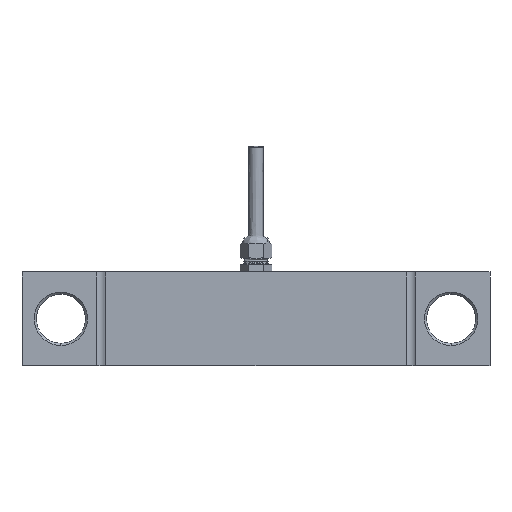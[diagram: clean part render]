
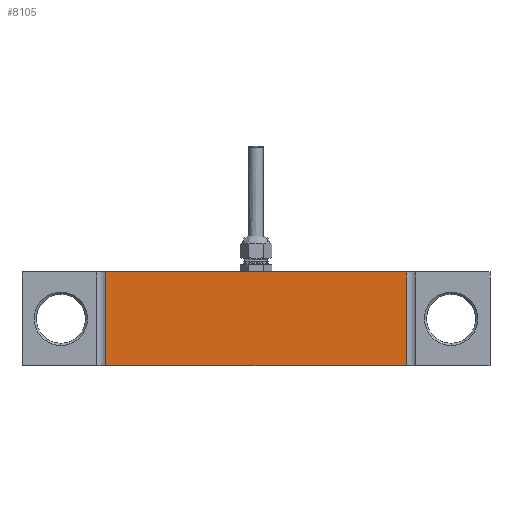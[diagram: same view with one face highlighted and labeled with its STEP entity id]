
A CAD part, front view. The second image highlights one B-rep face of the part: STEP entity #8105.
In plain terms, the highlighted planar face has unit normal (0, -1, 0).
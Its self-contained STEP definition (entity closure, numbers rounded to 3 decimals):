
#111 = VECTOR ( 'NONE', #9338, 1000. ) ;
#1200 = ORIENTED_EDGE ( 'NONE', *, *, #2675, .T. ) ;
#1270 = VERTEX_POINT ( 'NONE', #7924 ) ;
#1702 = DIRECTION ( 'NONE',  ( 1., 0., 0. ) ) ;
#2650 = LINE ( 'NONE', #3039, #111 ) ;
#2675 = EDGE_CURVE ( 'NONE', #8092, #5047, #7454, .T. ) ;
#3039 = CARTESIAN_POINT ( 'NONE',  ( 104.5, 0., -32.5 ) ) ;
#3702 = LINE ( 'NONE', #10732, #4556 ) ;
#4108 = ORIENTED_EDGE ( 'NONE', *, *, #9949, .T. ) ;
#4316 = DIRECTION ( 'NONE',  ( 0., 0., -1. ) ) ;
#4373 = CARTESIAN_POINT ( 'NONE',  ( -104.5, 0., -32.5 ) ) ;
#4556 = VECTOR ( 'NONE', #4316, 1000. ) ;
#5047 = VERTEX_POINT ( 'NONE', #8430 ) ;
#5121 = CARTESIAN_POINT ( 'NONE',  ( -104.5, 0., 32.5 ) ) ;
#5443 = EDGE_CURVE ( 'NONE', #6128, #1270, #8442, .T. ) ;
#5458 = VECTOR ( 'NONE', #1702, 1000. ) ;
#5966 = FACE_OUTER_BOUND ( 'NONE', #5980, .T. ) ;
#5980 = EDGE_LOOP ( 'NONE', ( #1200, #4108, #10382, #8447 ) ) ;
#6100 = PLANE ( 'NONE',  #8643 ) ;
#6128 = VERTEX_POINT ( 'NONE', #5121 ) ;
#7454 = LINE ( 'NONE', #11552, #5458 ) ;
#7924 = CARTESIAN_POINT ( 'NONE',  ( 104.5, 0., 32.5 ) ) ;
#8092 = VERTEX_POINT ( 'NONE', #4373 ) ;
#8101 = CARTESIAN_POINT ( 'NONE',  ( -162.5, 0., 32.5 ) ) ;
#8105 = ADVANCED_FACE ( 'NONE', ( #5966 ), #6100, .F. ) ;
#8373 = EDGE_CURVE ( 'NONE', #6128, #8092, #3702, .T. ) ;
#8430 = CARTESIAN_POINT ( 'NONE',  ( 104.5, 0., -32.5 ) ) ;
#8442 = LINE ( 'NONE', #8101, #10122 ) ;
#8447 = ORIENTED_EDGE ( 'NONE', *, *, #8373, .T. ) ;
#8643 = AXIS2_PLACEMENT_3D ( 'NONE', #10747, #9857, #9892 ) ;
#9338 = DIRECTION ( 'NONE',  ( 0., 0., 1. ) ) ;
#9857 = DIRECTION ( 'NONE',  ( 0., 1., 0. ) ) ;
#9892 = DIRECTION ( 'NONE',  ( -1., 0., 0. ) ) ;
#9949 = EDGE_CURVE ( 'NONE', #5047, #1270, #2650, .T. ) ;
#10122 = VECTOR ( 'NONE', #11608, 1000. ) ;
#10382 = ORIENTED_EDGE ( 'NONE', *, *, #5443, .F. ) ;
#10732 = CARTESIAN_POINT ( 'NONE',  ( -104.5, 0., -32.5 ) ) ;
#10747 = CARTESIAN_POINT ( 'NONE',  ( -162.5, 0., 32.5 ) ) ;
#11552 = CARTESIAN_POINT ( 'NONE',  ( 42., 0., -32.5 ) ) ;
#11608 = DIRECTION ( 'NONE',  ( 1., 0., 0. ) ) ;
